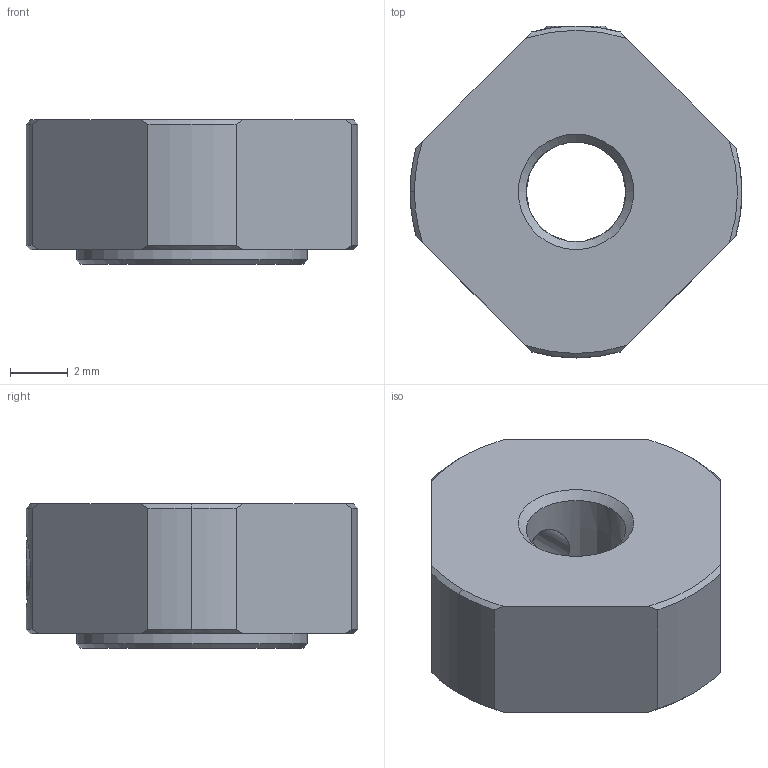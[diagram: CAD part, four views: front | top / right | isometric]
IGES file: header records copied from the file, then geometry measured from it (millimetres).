
Start section: Data from Parasolid IGES Translator 26.0.171, Copyright(c) 2006 Siemens PLM Software. All Rights Reserved.
Global section: file name: RN 4.igs; native system: By Siemens PLM Incorporated; preprocessor: XPlus GENERIC/IGES 26.0.171; author: Noname; organization: Noname; date: 20250611.073929; units: millimetre
Bounding box: 11.5 x 11.5 x 5 mm (x, y, z)
Surface area: 398.9 mm2 (no closed solid volume)
Topology: 0 solids, 0 shells, 39 faces, 194 edges, 188 vertices
Faces by surface type: revolution 23, extrusion 16
